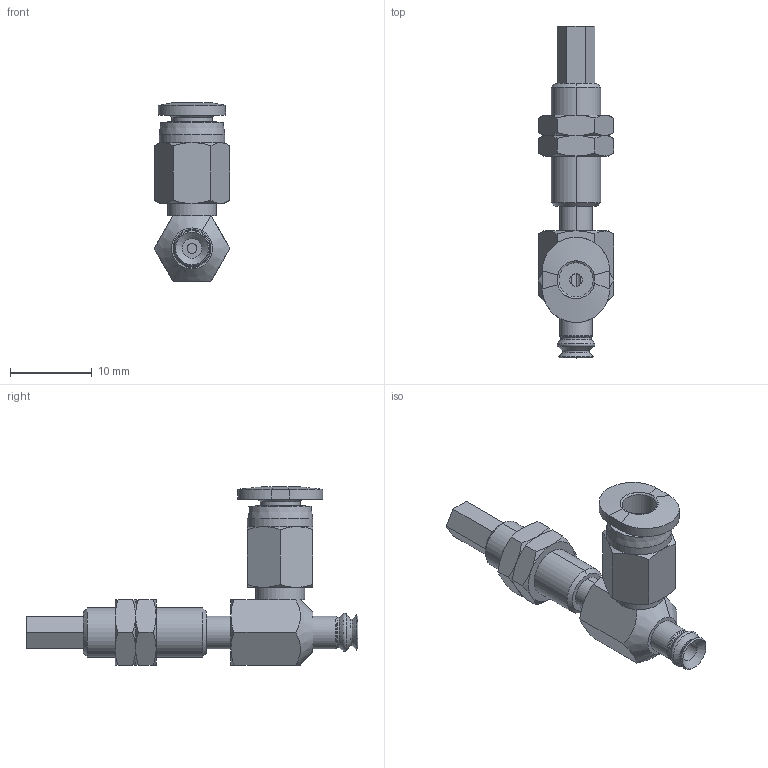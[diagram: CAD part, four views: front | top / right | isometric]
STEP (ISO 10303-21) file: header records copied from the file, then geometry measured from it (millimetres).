
FILE_DESCRIPTION(('STEP AP203'),'1');
FILE_NAME('-O.stp','2025-04-23T06:55:46',(' '),(' '),'Spatial InterOp 3D',' ',' ');
FILE_SCHEMA(('CONFIG_CONTROL_DESIGN'));
Length unit declared in the file: millimetre
Products named in the file (7): BNABPJYS-4-3-※-O; _Nut_1_5A_3_s; _CONNECTOR_1_5A_3; _NAPFTS_1_5A_3_FBODY; _NAPFTS_1_5A_3_MBODY; BPJG-4-※; PC-C_04-M3
Assembly tree (7 placements, depth 2):
  BNABPJYS-4-3-※-O
    _Nut_1_5A_3_s  x2
    _CONNECTOR_1_5A_3
    _NAPFTS_1_5A_3_FBODY
    _NAPFTS_1_5A_3_MBODY
    BPJG-4-※
    PC-C_04-M3
Bounding box: 9.24 x 40.5 x 21.77 mm (x, y, z)
Volume: 1236.3 mm3; surface area: 2639.3 mm2
Topology: 6 solids, 8 shells, 203 faces, 438 edges, 262 vertices
Faces by surface type: cone 77, plane 72, cylinder 35, torus 12, bspline 4, revolution 3
Full cylindrical faces by diameter (mm): 2 x1, 2.4 x1, 2.5 x2, 3 x2, 4 x1, 4.9 x1, 6 x1, 6.1 x1, 8 x1
Entity records: 5183 total; most frequent: CARTESIAN_POINT 1248, DIRECTION 768, ORIENTED_EDGE 676, EDGE_CURVE 339, AXIS2_PLACEMENT_3D 326, EDGE_LOOP 233, VERTEX_POINT 220, CIRCLE 149
